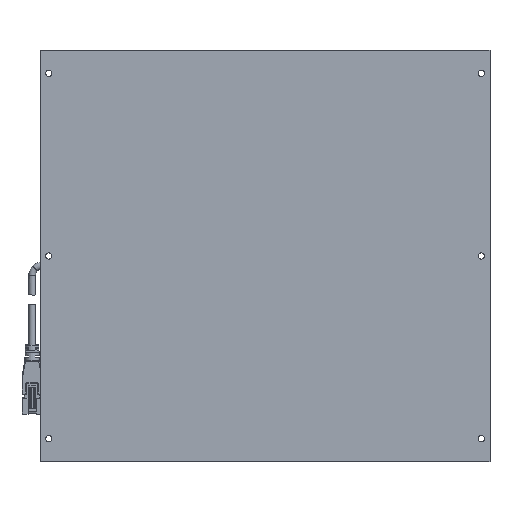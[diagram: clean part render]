
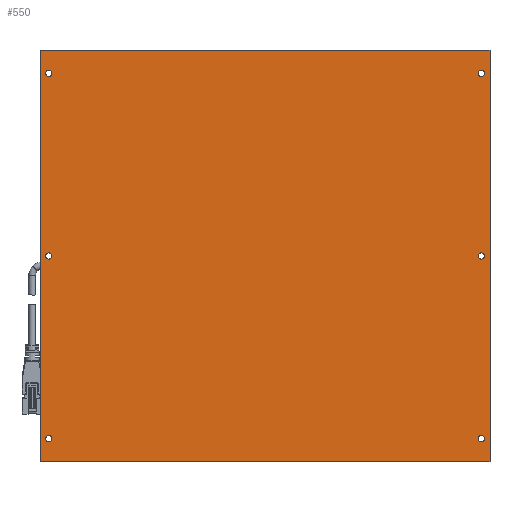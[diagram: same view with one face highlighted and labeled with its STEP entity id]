
A CAD part, front view. The second image highlights one B-rep face of the part: STEP entity #550.
In plain terms, the highlighted planar face has unit normal (0, -1, 0).
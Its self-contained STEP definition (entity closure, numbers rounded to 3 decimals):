
#1=DIRECTION('',(0.,0.,1.));
#2=VECTOR('',#1,214.);
#3=CARTESIAN_POINT('',(-117.,0.,-107.));
#4=LINE('',#3,#2);
#5=DIRECTION('',(1.,0.,0.));
#6=VECTOR('',#5,234.);
#7=CARTESIAN_POINT('',(-117.,0.,107.));
#8=LINE('',#7,#6);
#9=DIRECTION('',(0.,0.,-1.));
#10=VECTOR('',#9,214.);
#11=CARTESIAN_POINT('',(117.,0.,107.));
#12=LINE('',#11,#10);
#13=DIRECTION('',(-1.,0.,0.));
#14=VECTOR('',#13,234.);
#15=CARTESIAN_POINT('',(117.,0.,-107.));
#16=LINE('',#15,#14);
#17=CARTESIAN_POINT('',(-112.5,0.,-95.));
#18=DIRECTION('',(0.,-1.,0.));
#19=DIRECTION('',(1.,0.,0.));
#20=AXIS2_PLACEMENT_3D('',#17,#18,#19);
#22=CARTESIAN_POINT('',(-112.5,0.,-95.));
#23=DIRECTION('',(0.,-1.,0.));
#24=DIRECTION('',(-1.,0.,0.));
#25=AXIS2_PLACEMENT_3D('',#22,#23,#24);
#27=CARTESIAN_POINT('',(-112.5,0.,0.));
#28=DIRECTION('',(0.,-1.,0.));
#29=DIRECTION('',(1.,0.,0.));
#30=AXIS2_PLACEMENT_3D('',#27,#28,#29);
#32=CARTESIAN_POINT('',(-112.5,0.,0.));
#33=DIRECTION('',(0.,-1.,0.));
#34=DIRECTION('',(-1.,0.,0.));
#35=AXIS2_PLACEMENT_3D('',#32,#33,#34);
#37=CARTESIAN_POINT('',(-112.5,0.,95.));
#38=DIRECTION('',(0.,-1.,0.));
#39=DIRECTION('',(1.,0.,0.));
#40=AXIS2_PLACEMENT_3D('',#37,#38,#39);
#42=CARTESIAN_POINT('',(-112.5,0.,95.));
#43=DIRECTION('',(0.,-1.,0.));
#44=DIRECTION('',(-1.,0.,0.));
#45=AXIS2_PLACEMENT_3D('',#42,#43,#44);
#47=CARTESIAN_POINT('',(112.5,0.,-95.));
#48=DIRECTION('',(0.,1.,0.));
#49=DIRECTION('',(-1.,0.,0.));
#50=AXIS2_PLACEMENT_3D('',#47,#48,#49);
#52=CARTESIAN_POINT('',(112.5,0.,-95.));
#53=DIRECTION('',(0.,1.,0.));
#54=DIRECTION('',(1.,0.,0.));
#55=AXIS2_PLACEMENT_3D('',#52,#53,#54);
#57=CARTESIAN_POINT('',(112.5,0.,0.));
#58=DIRECTION('',(0.,1.,0.));
#59=DIRECTION('',(-1.,0.,0.));
#60=AXIS2_PLACEMENT_3D('',#57,#58,#59);
#62=CARTESIAN_POINT('',(112.5,0.,0.));
#63=DIRECTION('',(0.,1.,0.));
#64=DIRECTION('',(1.,0.,0.));
#65=AXIS2_PLACEMENT_3D('',#62,#63,#64);
#67=CARTESIAN_POINT('',(112.5,0.,95.));
#68=DIRECTION('',(0.,1.,0.));
#69=DIRECTION('',(-1.,0.,0.));
#70=AXIS2_PLACEMENT_3D('',#67,#68,#69);
#72=CARTESIAN_POINT('',(112.5,0.,95.));
#73=DIRECTION('',(0.,1.,0.));
#74=DIRECTION('',(1.,0.,0.));
#75=AXIS2_PLACEMENT_3D('',#72,#73,#74);
#383=CARTESIAN_POINT('',(-117.,0.,-107.));
#384=CARTESIAN_POINT('',(-117.,0.,107.));
#385=VERTEX_POINT('',#383);
#386=VERTEX_POINT('',#384);
#387=CARTESIAN_POINT('',(117.,0.,107.));
#388=VERTEX_POINT('',#387);
#389=CARTESIAN_POINT('',(117.,0.,-107.));
#390=VERTEX_POINT('',#389);
#423=CARTESIAN_POINT('',(-110.9,0.,-95.));
#424=CARTESIAN_POINT('',(-114.1,0.,-95.));
#425=VERTEX_POINT('',#423);
#426=VERTEX_POINT('',#424);
#459=CARTESIAN_POINT('',(-110.9,0.,0.));
#460=CARTESIAN_POINT('',(-114.1,0.,0.));
#461=VERTEX_POINT('',#459);
#462=VERTEX_POINT('',#460);
#467=CARTESIAN_POINT('',(-110.9,0.,95.));
#468=CARTESIAN_POINT('',(-114.1,0.,95.));
#469=VERTEX_POINT('',#467);
#470=VERTEX_POINT('',#468);
#476=CARTESIAN_POINT('',(110.9,0.,-95.));
#478=VERTEX_POINT('',#476);
#480=CARTESIAN_POINT('',(114.1,0.,-95.));
#482=VERTEX_POINT('',#480);
#484=CARTESIAN_POINT('',(110.9,0.,0.));
#486=VERTEX_POINT('',#484);
#488=CARTESIAN_POINT('',(114.1,0.,0.));
#490=VERTEX_POINT('',#488);
#492=CARTESIAN_POINT('',(110.9,0.,95.));
#494=VERTEX_POINT('',#492);
#496=CARTESIAN_POINT('',(114.1,0.,95.));
#498=VERTEX_POINT('',#496);
#499=CARTESIAN_POINT('',(0.,0.,0.));
#500=DIRECTION('',(0.,1.,0.));
#501=DIRECTION('',(1.,0.,0.));
#502=AXIS2_PLACEMENT_3D('',#499,#500,#501);
#503=PLANE('',#502);
#505=ORIENTED_EDGE('',*,*,#504,.T.);
#507=ORIENTED_EDGE('',*,*,#506,.T.);
#509=ORIENTED_EDGE('',*,*,#508,.T.);
#511=ORIENTED_EDGE('',*,*,#510,.T.);
#512=EDGE_LOOP('',(#505,#507,#509,#511));
#513=FACE_OUTER_BOUND('',#512,.F.);
#515=ORIENTED_EDGE('',*,*,#514,.T.);
#517=ORIENTED_EDGE('',*,*,#516,.T.);
#518=EDGE_LOOP('',(#515,#517));
#519=FACE_BOUND('',#518,.F.);
#521=ORIENTED_EDGE('',*,*,#520,.T.);
#523=ORIENTED_EDGE('',*,*,#522,.T.);
#524=EDGE_LOOP('',(#521,#523));
#525=FACE_BOUND('',#524,.F.);
#527=ORIENTED_EDGE('',*,*,#526,.T.);
#529=ORIENTED_EDGE('',*,*,#528,.T.);
#530=EDGE_LOOP('',(#527,#529));
#531=FACE_BOUND('',#530,.F.);
#533=ORIENTED_EDGE('',*,*,#532,.F.);
#535=ORIENTED_EDGE('',*,*,#534,.F.);
#536=EDGE_LOOP('',(#533,#535));
#537=FACE_BOUND('',#536,.F.);
#539=ORIENTED_EDGE('',*,*,#538,.F.);
#541=ORIENTED_EDGE('',*,*,#540,.F.);
#542=EDGE_LOOP('',(#539,#541));
#543=FACE_BOUND('',#542,.F.);
#545=ORIENTED_EDGE('',*,*,#544,.F.);
#547=ORIENTED_EDGE('',*,*,#546,.F.);
#548=EDGE_LOOP('',(#545,#547));
#549=FACE_BOUND('',#548,.F.);
#550=ADVANCED_FACE('',(#513,#519,#525,#531,#537,#543,#549),#503,.F.);
#21=CIRCLE('',#20,1.6);
#26=CIRCLE('',#25,1.6);
#31=CIRCLE('',#30,1.6);
#36=CIRCLE('',#35,1.6);
#41=CIRCLE('',#40,1.6);
#46=CIRCLE('',#45,1.6);
#51=CIRCLE('',#50,1.6);
#56=CIRCLE('',#55,1.6);
#61=CIRCLE('',#60,1.6);
#66=CIRCLE('',#65,1.6);
#71=CIRCLE('',#70,1.6);
#76=CIRCLE('',#75,1.6);
#504=EDGE_CURVE('',#385,#386,#4,.T.);
#506=EDGE_CURVE('',#386,#388,#8,.T.);
#508=EDGE_CURVE('',#388,#390,#12,.T.);
#510=EDGE_CURVE('',#390,#385,#16,.T.);
#514=EDGE_CURVE('',#425,#426,#21,.T.);
#516=EDGE_CURVE('',#426,#425,#26,.T.);
#520=EDGE_CURVE('',#461,#462,#31,.T.);
#522=EDGE_CURVE('',#462,#461,#36,.T.);
#526=EDGE_CURVE('',#469,#470,#41,.T.);
#528=EDGE_CURVE('',#470,#469,#46,.T.);
#532=EDGE_CURVE('',#478,#482,#51,.T.);
#534=EDGE_CURVE('',#482,#478,#56,.T.);
#538=EDGE_CURVE('',#486,#490,#61,.T.);
#540=EDGE_CURVE('',#490,#486,#66,.T.);
#544=EDGE_CURVE('',#494,#498,#71,.T.);
#546=EDGE_CURVE('',#498,#494,#76,.T.);
